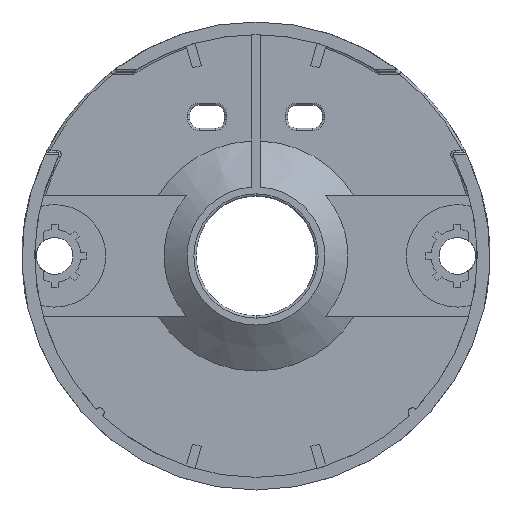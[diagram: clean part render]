
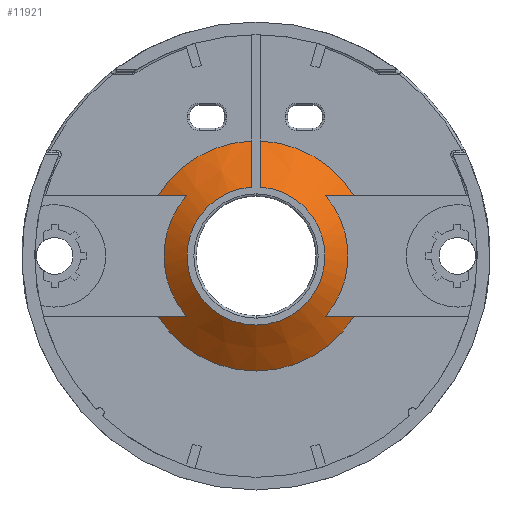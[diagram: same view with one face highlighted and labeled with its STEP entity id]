
A CAD part, front view. The second image highlights one B-rep face of the part: STEP entity #11921.
In plain terms, the highlighted conical face has half-angle 53.13 degrees and reference radius 10 mm.
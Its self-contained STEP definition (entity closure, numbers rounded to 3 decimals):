
#44 = DIRECTION ( 'NONE',  ( 0., 1., 0. ) ) ;
#104 = CARTESIAN_POINT ( 'NONE',  ( -6.036, 5.1, -5.25 ) ) ;
#110 = CARTESIAN_POINT ( 'NONE',  ( 6.036, 5.1, -5.25 ) ) ;
#368 = CIRCLE ( 'NONE', #6964, 10. ) ;
#714 = CARTESIAN_POINT ( 'NONE',  ( -6.876, 5.575, -5.25 ) ) ;
#881 = VERTEX_POINT ( 'NONE', #2538 ) ;
#945 = ORIENTED_EDGE ( 'NONE', *, *, #3324, .T. ) ;
#1042 = EDGE_LOOP ( 'NONE', ( #6832, #9875, #3906, #5503, #1218, #945, #6620, #5130, #4258, #8194, #3506, #17464 ) ) ;
#1218 = ORIENTED_EDGE ( 'NONE', *, *, #3346, .T. ) ;
#1381 = CARTESIAN_POINT ( 'NONE',  ( -0.4, 6.6, 9.992 ) ) ;
#1457 = CARTESIAN_POINT ( 'NONE',  ( 0., 6.6, 0. ) ) ;
#1592 = DIRECTION ( 'NONE',  ( 0., -1., 0. ) ) ;
#1657 = CARTESIAN_POINT ( 'NONE',  ( 6.876, 5.575, 5.25 ) ) ;
#1982 = VERTEX_POINT ( 'NONE', #15478 ) ;
#2002 = AXIS2_PLACEMENT_3D ( 'NONE', #1457, #13608, #11590 ) ;
#2076 = CARTESIAN_POINT ( 'NONE',  ( 6.036, 5.1, -5.25 ) ) ;
#2087 = CARTESIAN_POINT ( 'NONE',  ( -6.036, 5.1, 5.25 ) ) ;
#2363 = CARTESIAN_POINT ( 'NONE',  ( 8.511, 6.6, 5.25 ) ) ;
#2511 = CARTESIAN_POINT ( 'NONE',  ( 0.4, 6.6, 9.992 ) ) ;
#2538 = CARTESIAN_POINT ( 'NONE',  ( 0.4, 3.6, 5.987 ) ) ;
#2748 = VERTEX_POINT ( 'NONE', #9241 ) ;
#2928 = CARTESIAN_POINT ( 'NONE',  ( -0.4, 4.599, 7.322 ) ) ;
#2954 = CARTESIAN_POINT ( 'NONE',  ( 0., 6.6, 0. ) ) ;
#3110 = EDGE_CURVE ( 'NONE', #9507, #8629, #11676, .T. ) ;
#3186 = CARTESIAN_POINT ( 'NONE',  ( 0.4, 6.6, 9.992 ) ) ;
#3244 = EDGE_CURVE ( 'NONE', #16999, #8383, #12065, .T. ) ;
#3324 = EDGE_CURVE ( 'NONE', #1982, #6450, #11981, .T. ) ;
#3346 = EDGE_CURVE ( 'NONE', #5154, #1982, #8883, .T. ) ;
#3506 = ORIENTED_EDGE ( 'NONE', *, *, #5291, .T. ) ;
#3522 = FACE_OUTER_BOUND ( 'NONE', #1042, .T. ) ;
#3651 = EDGE_CURVE ( 'NONE', #5224, #14670, #12346, .T. ) ;
#3780 = EDGE_CURVE ( 'NONE', #2748, #5154, #14348, .T. ) ;
#3828 = DIRECTION ( 'NONE',  ( 0., -1., 0. ) ) ;
#3894 = EDGE_CURVE ( 'NONE', #881, #16999, #17043, .T. ) ;
#3906 = ORIENTED_EDGE ( 'NONE', *, *, #10542, .T. ) ;
#3929 = EDGE_CURVE ( 'NONE', #7384, #881, #12971, .T. ) ;
#3956 = EDGE_CURVE ( 'NONE', #6450, #7384, #368, .T. ) ;
#4066 = CARTESIAN_POINT ( 'NONE',  ( 8.511, 6.6, 5.25 ) ) ;
#4223 = CARTESIAN_POINT ( 'NONE',  ( -6.036, 5.1, 5.25 ) ) ;
#4258 = ORIENTED_EDGE ( 'NONE', *, *, #3894, .T. ) ;
#4516 = CARTESIAN_POINT ( 'NONE',  ( -0.4, 6.6, 9.992 ) ) ;
#4657 = DIRECTION ( 'NONE',  ( 0., 0., 1. ) ) ;
#5103 = DIRECTION ( 'NONE',  ( 0., 0., 1. ) ) ;
#5130 = ORIENTED_EDGE ( 'NONE', *, *, #3929, .T. ) ;
#5154 = VERTEX_POINT ( 'NONE', #110 ) ;
#5224 = VERTEX_POINT ( 'NONE', #17459 ) ;
#5291 = EDGE_CURVE ( 'NONE', #8383, #9507, #16981, .T. ) ;
#5503 = ORIENTED_EDGE ( 'NONE', *, *, #3780, .T. ) ;
#5518 = CARTESIAN_POINT ( 'NONE',  ( -8.511, 6.6, 5.25 ) ) ;
#5836 = CONICAL_SURFACE ( 'NONE', #14774, 10., 0.927 ) ;
#5971 = EDGE_CURVE ( 'NONE', #8629, #5224, #11240, .T. ) ;
#6450 = VERTEX_POINT ( 'NONE', #2363 ) ;
#6620 = ORIENTED_EDGE ( 'NONE', *, *, #3956, .T. ) ;
#6832 = ORIENTED_EDGE ( 'NONE', *, *, #5971, .T. ) ;
#6923 = CARTESIAN_POINT ( 'NONE',  ( -8.511, 6.6, -5.25 ) ) ;
#6964 = AXIS2_PLACEMENT_3D ( 'NONE', #2954, #3828, #17434 ) ;
#7384 = VERTEX_POINT ( 'NONE', #2511 ) ;
#7774 = CARTESIAN_POINT ( 'NONE',  ( 0., 5.1, 0. ) ) ;
#8194 = ORIENTED_EDGE ( 'NONE', *, *, #3244, .T. ) ;
#8383 = VERTEX_POINT ( 'NONE', #1381 ) ;
#8438 = CARTESIAN_POINT ( 'NONE',  ( 6.876, 5.575, -5.25 ) ) ;
#8629 = VERTEX_POINT ( 'NONE', #2087 ) ;
#8883 = CIRCLE ( 'NONE', #15257, 8. ) ;
#9236 = CARTESIAN_POINT ( 'NONE',  ( 6.036, 5.1, 5.25 ) ) ;
#9241 = CARTESIAN_POINT ( 'NONE',  ( 8.511, 6.6, -5.25 ) ) ;
#9507 = VERTEX_POINT ( 'NONE', #9648 ) ;
#9648 = CARTESIAN_POINT ( 'NONE',  ( -8.511, 6.6, 5.25 ) ) ;
#9875 = ORIENTED_EDGE ( 'NONE', *, *, #3651, .T. ) ;
#10542 = EDGE_CURVE ( 'NONE', #14670, #2748, #12771, .T. ) ;
#10629 = CARTESIAN_POINT ( 'NONE',  ( 0., 6.6, 0. ) ) ;
#10650 = CARTESIAN_POINT ( 'NONE',  ( 0., 6.6, 0. ) ) ;
#11240 = CIRCLE ( 'NONE', #15987, 8. ) ;
#11590 = DIRECTION ( 'NONE',  ( 0., 0., 1. ) ) ;
#11676 = B_SPLINE_CURVE_WITH_KNOTS ( 'NONE', 3,
 ( #5518, #15336, #16731, #4223 ),
 .UNSPECIFIED., .F., .F.,
 ( 4, 4 ),
 ( 0., 0.003 ),
 .UNSPECIFIED. ) ;
#11716 = CARTESIAN_POINT ( 'NONE',  ( 0.4, 3.6, 5.987 ) ) ;
#11921 = ADVANCED_FACE ( 'NONE', ( #3522 ), #5836, .T. ) ;
#11981 = B_SPLINE_CURVE_WITH_KNOTS ( 'NONE', 3,
 ( #9236, #1657, #13590, #4066 ),
 .UNSPECIFIED., .F., .F.,
 ( 4, 4 ),
 ( 0., 0.003 ),
 .UNSPECIFIED. ) ;
#12065 = B_SPLINE_CURVE_WITH_KNOTS ( 'NONE', 3,
 ( #17268, #2928, #16582, #4516 ),
 .UNSPECIFIED., .F., .F.,
 ( 4, 4 ),
 ( 0., 0.005 ),
 .UNSPECIFIED. ) ;
#12346 = B_SPLINE_CURVE_WITH_KNOTS ( 'NONE', 3,
 ( #104, #714, #13066, #15155 ),
 .UNSPECIFIED., .F., .F.,
 ( 4, 4 ),
 ( 0., 0.003 ),
 .UNSPECIFIED. ) ;
#12771 = CIRCLE ( 'NONE', #14573, 10. ) ;
#12780 = DIRECTION ( 'NONE',  ( 0., -1., 0. ) ) ;
#12928 = CARTESIAN_POINT ( 'NONE',  ( 8.511, 6.6, -5.25 ) ) ;
#12971 = B_SPLINE_CURVE_WITH_KNOTS ( 'NONE', 3,
 ( #3186, #14639, #16893, #11716 ),
 .UNSPECIFIED., .F., .F.,
 ( 4, 4 ),
 ( 0., 0.005 ),
 .UNSPECIFIED. ) ;
#13066 = CARTESIAN_POINT ( 'NONE',  ( -7.698, 6.081, -5.25 ) ) ;
#13590 = CARTESIAN_POINT ( 'NONE',  ( 7.698, 6.081, 5.25 ) ) ;
#13608 = DIRECTION ( 'NONE',  ( 0., -1., 0. ) ) ;
#13852 = AXIS2_PLACEMENT_3D ( 'NONE', #14346, #14252, #17224 ) ;
#13987 = CARTESIAN_POINT ( 'NONE',  ( 0., 5.1, 0. ) ) ;
#14252 = DIRECTION ( 'NONE',  ( 0., 1., 0. ) ) ;
#14346 = CARTESIAN_POINT ( 'NONE',  ( 0., 3.6, 0. ) ) ;
#14348 = B_SPLINE_CURVE_WITH_KNOTS ( 'NONE', 3,
 ( #12928, #16119, #8438, #2076 ),
 .UNSPECIFIED., .F., .F.,
 ( 4, 4 ),
 ( 0., 0.003 ),
 .UNSPECIFIED. ) ;
#14573 = AXIS2_PLACEMENT_3D ( 'NONE', #10650, #12780, #5103 ) ;
#14639 = CARTESIAN_POINT ( 'NONE',  ( 0.4, 5.6, 8.657 ) ) ;
#14670 = VERTEX_POINT ( 'NONE', #6923 ) ;
#14774 = AXIS2_PLACEMENT_3D ( 'NONE', #10629, #44, #4657 ) ;
#15072 = DIRECTION ( 'NONE',  ( 0., 0., 1. ) ) ;
#15155 = CARTESIAN_POINT ( 'NONE',  ( -8.511, 6.6, -5.25 ) ) ;
#15257 = AXIS2_PLACEMENT_3D ( 'NONE', #13987, #1592, #15570 ) ;
#15336 = CARTESIAN_POINT ( 'NONE',  ( -7.698, 6.081, 5.25 ) ) ;
#15478 = CARTESIAN_POINT ( 'NONE',  ( 6.036, 5.1, 5.25 ) ) ;
#15570 = DIRECTION ( 'NONE',  ( 0., 0., 1. ) ) ;
#15987 = AXIS2_PLACEMENT_3D ( 'NONE', #7774, #16584, #15072 ) ;
#16044 = CARTESIAN_POINT ( 'NONE',  ( -0.4, 3.6, 5.987 ) ) ;
#16119 = CARTESIAN_POINT ( 'NONE',  ( 7.698, 6.081, -5.25 ) ) ;
#16582 = CARTESIAN_POINT ( 'NONE',  ( -0.4, 5.6, 8.657 ) ) ;
#16584 = DIRECTION ( 'NONE',  ( 0., -1., 0. ) ) ;
#16731 = CARTESIAN_POINT ( 'NONE',  ( -6.876, 5.575, 5.25 ) ) ;
#16893 = CARTESIAN_POINT ( 'NONE',  ( 0.4, 4.599, 7.322 ) ) ;
#16981 = CIRCLE ( 'NONE', #2002, 10. ) ;
#16999 = VERTEX_POINT ( 'NONE', #16044 ) ;
#17043 = CIRCLE ( 'NONE', #13852, 6. ) ;
#17224 = DIRECTION ( 'NONE',  ( 0., 0., 1. ) ) ;
#17268 = CARTESIAN_POINT ( 'NONE',  ( -0.4, 3.6, 5.987 ) ) ;
#17434 = DIRECTION ( 'NONE',  ( 0., 0., 1. ) ) ;
#17459 = CARTESIAN_POINT ( 'NONE',  ( -6.036, 5.1, -5.25 ) ) ;
#17464 = ORIENTED_EDGE ( 'NONE', *, *, #3110, .T. ) ;
